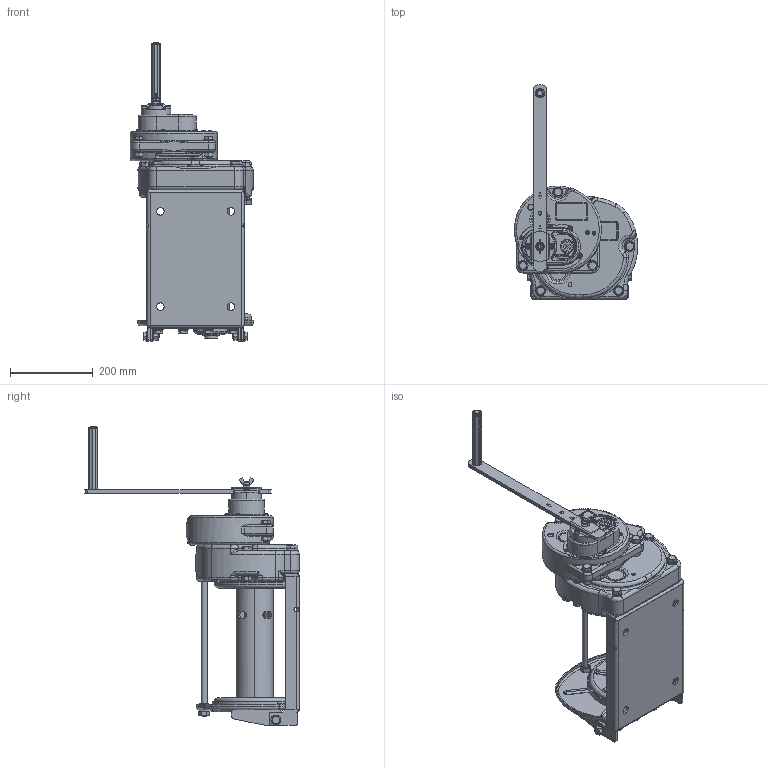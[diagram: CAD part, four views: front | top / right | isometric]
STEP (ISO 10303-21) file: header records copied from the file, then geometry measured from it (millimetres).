
FILE_DESCRIPTION( (''), '2;1');
FILE_NAME ('GM-30-LUSI.stp','2024-05-10T16:41:30',(''),(''),'spGate 19.8.2 (****-****-****-****)','','');
FILE_SCHEMA (('AUTOMOTIVE_DESIGN'));
Length unit declared in the file: millimetre
Products named in the file (3): Assembly; GM-30-LUSI-prt0; GM-30-LUSI-prt1
Assembly tree (2 placements, depth 2):
  Assembly
    GM-30-LUSI-prt0
    GM-30-LUSI-prt1
Bounding box: 297.43 x 518.43 x 723.3 mm (x, y, z)
Volume: 10594417.2 mm3; surface area: 1145053.5 mm2
Topology: 2 solids, 2 shells, 3161 faces, 8120 edges, 5043 vertices
Faces by surface type: plane 1505, cylinder 963, bspline 611, sphere 82
Entity records: 173932 total; most frequent: CARTESIAN_POINT 35624, ORIENTED_EDGE 16036, DIRECTION 15192, COLOUR_RGB 11181, PRESENTATION_STYLE_ASSIGNMENT 11181, STYLED_ITEM 11181, EDGE_CURVE 8018, DRAUGHTING_PRE_DEFINED_CURVE_FONT 8018
